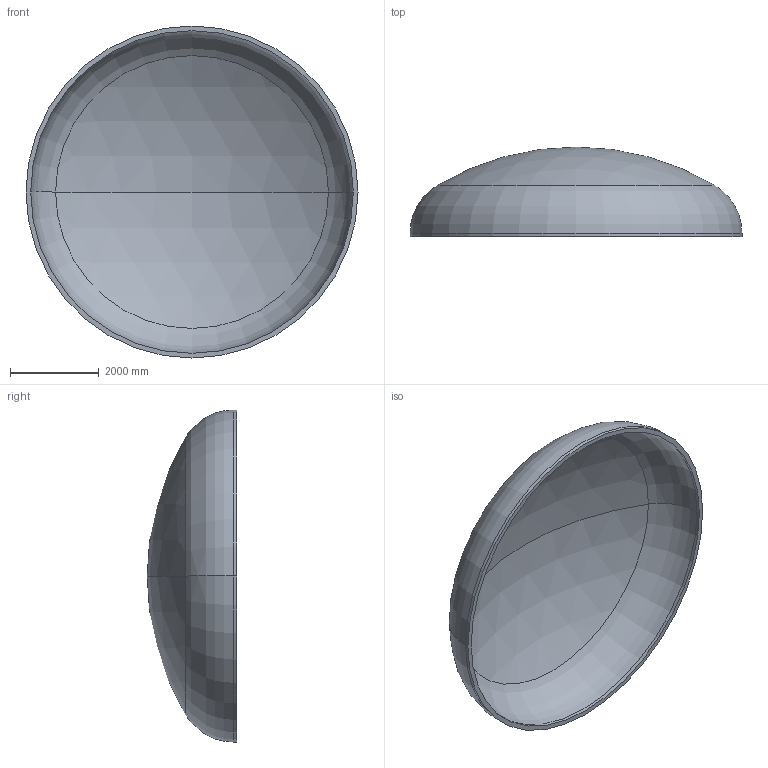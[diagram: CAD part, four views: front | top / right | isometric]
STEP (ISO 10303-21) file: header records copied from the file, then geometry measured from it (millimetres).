
FILE_DESCRIPTION (( 'STEP AP203' ), '1' );
FILE_NAME ('DIN 28013 Korbbogenform_-_Boden DIN 28013 - 7500 x 75 - I - s=106.step', '2016-07-04T10:57:16', ( '' ), ( '' ), 'SwSTEP 2.0', 'SolidWorks 2013', '' );
FILE_SCHEMA (( 'CONFIG_CONTROL_DESIGN' ));
Length unit declared in the file: millimetre
Products named in the file (1): DIN 28013 Korbbogenform_-_Boden DIN 28013 - 7500 x 75 - I - s=106
Bounding box: 7500 x 2024.21 x 7500 mm (x, y, z)
Volume: 6550489343.5 mm3; surface area: 126079890.8 mm2
Topology: 1 solids, 1 shells, 13 faces, 24 edges, 14 vertices
Faces by surface type: torus 4, cylinder 4, sphere 4, plane 1
Entity records: 407 total; most frequent: DIRECTION 72, CARTESIAN_POINT 52, ORIENTED_EDGE 48, AXIS2_PLACEMENT_3D 34, EDGE_CURVE 24, CIRCLE 20, VERTEX_POINT 14, EDGE_LOOP 14
